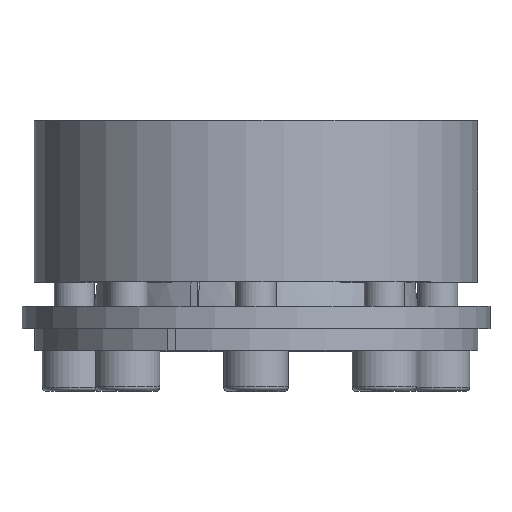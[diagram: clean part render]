
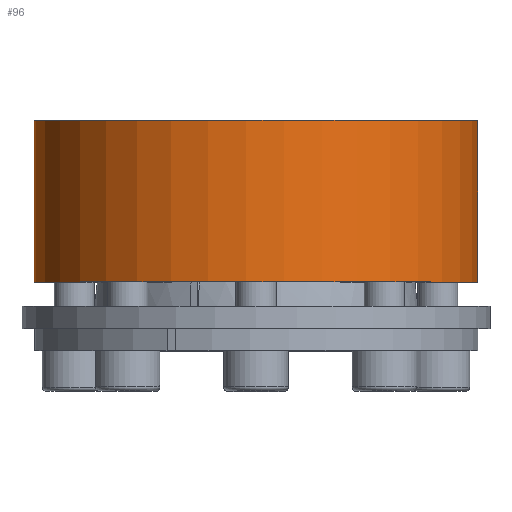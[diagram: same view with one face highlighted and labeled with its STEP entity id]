
A CAD part, top view. The second image highlights one B-rep face of the part: STEP entity #96.
In plain terms, the highlighted cylindrical face has radius 55 mm (diameter 110 mm), a partial arc.
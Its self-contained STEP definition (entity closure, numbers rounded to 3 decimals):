
#96 = ADVANCED_FACE( '', ( #220 ), #221, .T. );
#220 = FACE_OUTER_BOUND( '', #416, .T. );
#221 = CYLINDRICAL_SURFACE( '', #417, 55. );
#416 = EDGE_LOOP( '', ( #671, #672, #673, #674 ) );
#417 = AXIS2_PLACEMENT_3D( '', #675, #676, #677 );
#671 = ORIENTED_EDGE( '', *, *, #1071, .F. );
#672 = ORIENTED_EDGE( '', *, *, #1072, .T. );
#673 = ORIENTED_EDGE( '', *, *, #1073, .T. );
#674 = ORIENTED_EDGE( '', *, *, #1074, .F. );
#675 = CARTESIAN_POINT( '', ( 0., -60., 0. ) );
#676 = DIRECTION( '', ( 0., 1., 0. ) );
#677 = DIRECTION( '', ( 0., 0., -1. ) );
#1071 = EDGE_CURVE( '', #1298, #1299, #1300, .T. );
#1072 = EDGE_CURVE( '', #1298, #1301, #1302, .F. );
#1073 = EDGE_CURVE( '', #1301, #1303, #1304, .T. );
#1074 = EDGE_CURVE( '', #1299, #1303, #1305, .F. );
#1298 = VERTEX_POINT( '', #1662 );
#1299 = VERTEX_POINT( '', #1663 );
#1300 = CIRCLE( '', #1664, 55. );
#1301 = VERTEX_POINT( '', #1665 );
#1302 = LINE( '', #1666, #1667 );
#1303 = VERTEX_POINT( '', #1668 );
#1304 = CIRCLE( '', #1669, 55. );
#1305 = LINE( '', #1670, #1671 );
#1662 = CARTESIAN_POINT( '', ( 22.06, 17., -50.382 ) );
#1663 = CARTESIAN_POINT( '', ( 20.027, 17., -51.224 ) );
#1664 = AXIS2_PLACEMENT_3D( '', #1979, #1980, #1981 );
#1665 = CARTESIAN_POINT( '', ( 22.06, 57., -50.382 ) );
#1666 = CARTESIAN_POINT( '', ( 22.06, -60., -50.382 ) );
#1667 = VECTOR( '', #1982, 1000. );
#1668 = CARTESIAN_POINT( '', ( 20.027, 57., -51.224 ) );
#1669 = AXIS2_PLACEMENT_3D( '', #1983, #1984, #1985 );
#1670 = CARTESIAN_POINT( '', ( 20.027, -60., -51.224 ) );
#1671 = VECTOR( '', #1986, 1000. );
#1979 = CARTESIAN_POINT( '', ( 0., 17., 0. ) );
#1980 = DIRECTION( '', ( 0., -1., 0. ) );
#1981 = DIRECTION( '', ( 0., 0., -1. ) );
#1982 = DIRECTION( '', ( 0., -1., 0. ) );
#1983 = CARTESIAN_POINT( '', ( 0., 57., 0. ) );
#1984 = DIRECTION( '', ( 0., -1., 0. ) );
#1985 = DIRECTION( '', ( 0., 0., -1. ) );
#1986 = DIRECTION( '', ( 0., -1., 0. ) );
